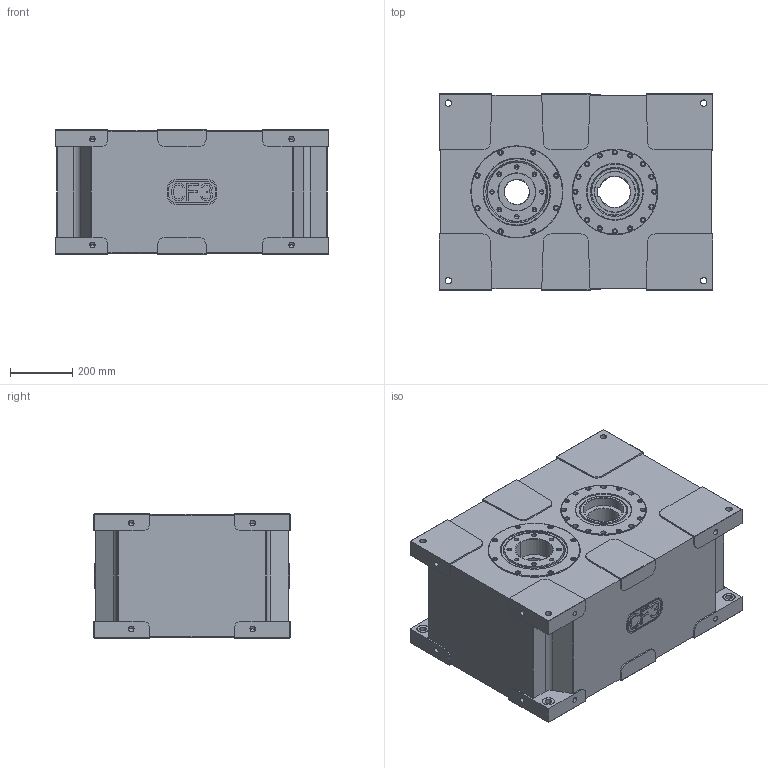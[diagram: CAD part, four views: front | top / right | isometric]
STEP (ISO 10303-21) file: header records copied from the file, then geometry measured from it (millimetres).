
FILE_DESCRIPTION((''),'2;1');
FILE_NAME('CF3_315P','2008-10-01T',('gbiondi'),(''),'PRO/ENGINEER BY PARAMETRIC TECHNOLOGY CORPORATION, 2008070','PRO/ENGINEER BY PARAMETRIC TECHNOLOGY CORPORATION, 2008070','');
FILE_SCHEMA(('CONFIG_CONTROL_DESIGN'));
Length unit declared in the file: millimetre
Products named in the file (1): CF3_315P
Bounding box: 880 x 630 x 400 mm (x, y, z)
Volume: 199538790.6 mm3; surface area: 3210660 mm2
Topology: 1 solids, 2 shells, 1577 faces, 3828 edges, 2446 vertices
Faces by surface type: plane 822, cylinder 535, cone 220
Entity records: 47552 total; most frequent: CARTESIAN_POINT 9697, DIRECTION 8078, ORIENTED_EDGE 7528, EDGE_CURVE 3764, AXIS2_PLACEMENT_3D 2777, VECTOR 2524, LINE 2524, VERTEX_POINT 2446
